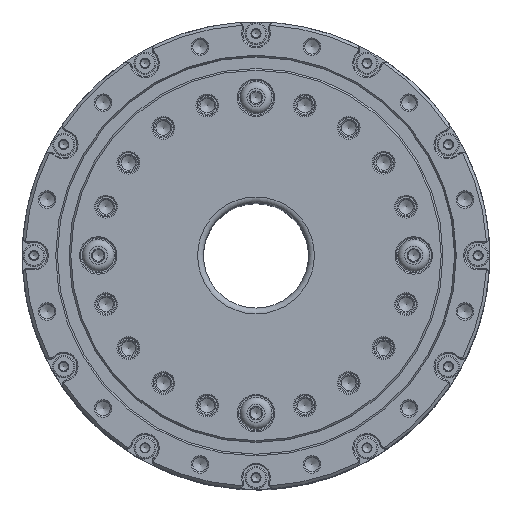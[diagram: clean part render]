
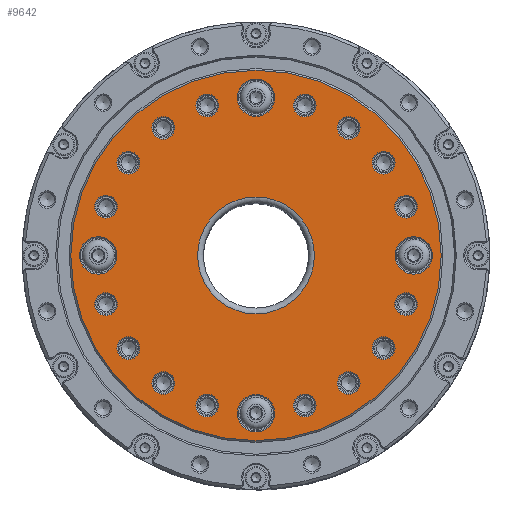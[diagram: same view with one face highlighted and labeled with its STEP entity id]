
A CAD part, top view. The second image highlights one B-rep face of the part: STEP entity #9642.
In plain terms, the highlighted planar face has unit normal (0, 0, 1).
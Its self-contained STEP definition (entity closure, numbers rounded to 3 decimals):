
#5162=FACE_BOUND('',#15038,.T.);
#5163=FACE_BOUND('',#15039,.T.);
#5164=FACE_BOUND('',#15040,.T.);
#5165=FACE_BOUND('',#15041,.T.);
#5166=FACE_BOUND('',#15042,.T.);
#5167=FACE_BOUND('',#15043,.T.);
#5168=FACE_BOUND('',#15044,.T.);
#5169=FACE_BOUND('',#15045,.T.);
#5170=FACE_BOUND('',#15046,.T.);
#5171=FACE_BOUND('',#15047,.T.);
#5172=FACE_BOUND('',#15048,.T.);
#5173=FACE_BOUND('',#15049,.T.);
#5174=FACE_BOUND('',#15050,.T.);
#5175=FACE_BOUND('',#15051,.T.);
#5176=FACE_BOUND('',#15052,.T.);
#5177=FACE_BOUND('',#15053,.T.);
#5178=FACE_BOUND('',#15054,.T.);
#5179=FACE_BOUND('',#15055,.T.);
#5180=FACE_BOUND('',#15056,.T.);
#5181=FACE_BOUND('',#15057,.T.);
#5182=FACE_BOUND('',#15058,.T.);
#5183=FACE_BOUND('',#15059,.T.);
#7421=CIRCLE('',#36203,10.);
#7422=CIRCLE('',#36205,3.2);
#7423=CIRCLE('',#36206,3.2);
#7424=CIRCLE('',#36207,3.2);
#7425=CIRCLE('',#36208,3.2);
#7426=CIRCLE('',#36209,1.95);
#7427=CIRCLE('',#36210,1.95);
#7428=CIRCLE('',#36211,1.95);
#7429=CIRCLE('',#36212,1.95);
#7430=CIRCLE('',#36213,1.95);
#7431=CIRCLE('',#36214,1.95);
#7432=CIRCLE('',#36215,1.95);
#7433=CIRCLE('',#36216,1.95);
#7434=CIRCLE('',#36217,1.95);
#7435=CIRCLE('',#36218,1.95);
#7436=CIRCLE('',#36219,1.95);
#7437=CIRCLE('',#36220,1.95);
#7438=CIRCLE('',#36221,1.95);
#7439=CIRCLE('',#36222,1.95);
#7440=CIRCLE('',#36223,1.95);
#7441=CIRCLE('',#36224,1.95);
#7442=CIRCLE('',#36225,31.7);
#9642=ADVANCED_FACE('',(#5162,#5163,#5164,#5165,#5166,#5167,#5168,#5169,
#5170,#5171,#5172,#5173,#5174,#5175,#5176,#5177,#5178,#5179,#5180,#5181,
#5182,#5183),#10655,.F.);
#10655=PLANE('',#36226);
#15038=EDGE_LOOP('',(#22160));
#15039=EDGE_LOOP('',(#22161));
#15040=EDGE_LOOP('',(#22162));
#15041=EDGE_LOOP('',(#22163));
#15042=EDGE_LOOP('',(#22164));
#15043=EDGE_LOOP('',(#22165));
#15044=EDGE_LOOP('',(#22166));
#15045=EDGE_LOOP('',(#22167));
#15046=EDGE_LOOP('',(#22168));
#15047=EDGE_LOOP('',(#22169));
#15048=EDGE_LOOP('',(#22170));
#15049=EDGE_LOOP('',(#22171));
#15050=EDGE_LOOP('',(#22172));
#15051=EDGE_LOOP('',(#22173));
#15052=EDGE_LOOP('',(#22174));
#15053=EDGE_LOOP('',(#22175));
#15054=EDGE_LOOP('',(#22176));
#15055=EDGE_LOOP('',(#22177));
#15056=EDGE_LOOP('',(#22178));
#15057=EDGE_LOOP('',(#22179));
#15058=EDGE_LOOP('',(#22180));
#15059=EDGE_LOOP('',(#22181));
#22160=ORIENTED_EDGE('',*,*,#29264,.T.);
#22161=ORIENTED_EDGE('',*,*,#29265,.T.);
#22162=ORIENTED_EDGE('',*,*,#29266,.T.);
#22163=ORIENTED_EDGE('',*,*,#29267,.T.);
#22164=ORIENTED_EDGE('',*,*,#29268,.T.);
#22165=ORIENTED_EDGE('',*,*,#29269,.T.);
#22166=ORIENTED_EDGE('',*,*,#29270,.T.);
#22167=ORIENTED_EDGE('',*,*,#29271,.T.);
#22168=ORIENTED_EDGE('',*,*,#29272,.T.);
#22169=ORIENTED_EDGE('',*,*,#29273,.T.);
#22170=ORIENTED_EDGE('',*,*,#29274,.T.);
#22171=ORIENTED_EDGE('',*,*,#29275,.T.);
#22172=ORIENTED_EDGE('',*,*,#29276,.T.);
#22173=ORIENTED_EDGE('',*,*,#29277,.T.);
#22174=ORIENTED_EDGE('',*,*,#29278,.T.);
#22175=ORIENTED_EDGE('',*,*,#29279,.T.);
#22176=ORIENTED_EDGE('',*,*,#29280,.T.);
#22177=ORIENTED_EDGE('',*,*,#29281,.T.);
#22178=ORIENTED_EDGE('',*,*,#29282,.T.);
#22179=ORIENTED_EDGE('',*,*,#29283,.T.);
#22180=ORIENTED_EDGE('',*,*,#29284,.F.);
#22181=ORIENTED_EDGE('',*,*,#29263,.T.);
#25612=VERTEX_POINT('',#56383);
#25613=VERTEX_POINT('',#56386);
#25614=VERTEX_POINT('',#56388);
#25615=VERTEX_POINT('',#56390);
#25616=VERTEX_POINT('',#56392);
#25617=VERTEX_POINT('',#56394);
#25618=VERTEX_POINT('',#56396);
#25619=VERTEX_POINT('',#56398);
#25620=VERTEX_POINT('',#56400);
#25621=VERTEX_POINT('',#56402);
#25622=VERTEX_POINT('',#56404);
#25623=VERTEX_POINT('',#56406);
#25624=VERTEX_POINT('',#56408);
#25625=VERTEX_POINT('',#56410);
#25626=VERTEX_POINT('',#56412);
#25627=VERTEX_POINT('',#56414);
#25628=VERTEX_POINT('',#56416);
#25629=VERTEX_POINT('',#56418);
#25630=VERTEX_POINT('',#56420);
#25631=VERTEX_POINT('',#56422);
#25632=VERTEX_POINT('',#56424);
#25633=VERTEX_POINT('',#56426);
#29263=EDGE_CURVE('',#25612,#25612,#7421,.T.);
#29264=EDGE_CURVE('',#25613,#25613,#7422,.T.);
#29265=EDGE_CURVE('',#25614,#25614,#7423,.T.);
#29266=EDGE_CURVE('',#25615,#25615,#7424,.T.);
#29267=EDGE_CURVE('',#25616,#25616,#7425,.T.);
#29268=EDGE_CURVE('',#25617,#25617,#7426,.T.);
#29269=EDGE_CURVE('',#25618,#25618,#7427,.T.);
#29270=EDGE_CURVE('',#25619,#25619,#7428,.T.);
#29271=EDGE_CURVE('',#25620,#25620,#7429,.T.);
#29272=EDGE_CURVE('',#25621,#25621,#7430,.T.);
#29273=EDGE_CURVE('',#25622,#25622,#7431,.T.);
#29274=EDGE_CURVE('',#25623,#25623,#7432,.T.);
#29275=EDGE_CURVE('',#25624,#25624,#7433,.T.);
#29276=EDGE_CURVE('',#25625,#25625,#7434,.T.);
#29277=EDGE_CURVE('',#25626,#25626,#7435,.T.);
#29278=EDGE_CURVE('',#25627,#25627,#7436,.T.);
#29279=EDGE_CURVE('',#25628,#25628,#7437,.T.);
#29280=EDGE_CURVE('',#25629,#25629,#7438,.T.);
#29281=EDGE_CURVE('',#25630,#25630,#7439,.T.);
#29282=EDGE_CURVE('',#25631,#25631,#7440,.T.);
#29283=EDGE_CURVE('',#25632,#25632,#7441,.T.);
#29284=EDGE_CURVE('',#25633,#25633,#7442,.T.);
#36203=AXIS2_PLACEMENT_3D('',#56382,#45608,#45609);
#36205=AXIS2_PLACEMENT_3D('',#56385,#45612,#45613);
#36206=AXIS2_PLACEMENT_3D('',#56387,#45614,#45615);
#36207=AXIS2_PLACEMENT_3D('',#56389,#45616,#45617);
#36208=AXIS2_PLACEMENT_3D('',#56391,#45618,#45619);
#36209=AXIS2_PLACEMENT_3D('',#56393,#45620,#45621);
#36210=AXIS2_PLACEMENT_3D('',#56395,#45622,#45623);
#36211=AXIS2_PLACEMENT_3D('',#56397,#45624,#45625);
#36212=AXIS2_PLACEMENT_3D('',#56399,#45626,#45627);
#36213=AXIS2_PLACEMENT_3D('',#56401,#45628,#45629);
#36214=AXIS2_PLACEMENT_3D('',#56403,#45630,#45631);
#36215=AXIS2_PLACEMENT_3D('',#56405,#45632,#45633);
#36216=AXIS2_PLACEMENT_3D('',#56407,#45634,#45635);
#36217=AXIS2_PLACEMENT_3D('',#56409,#45636,#45637);
#36218=AXIS2_PLACEMENT_3D('',#56411,#45638,#45639);
#36219=AXIS2_PLACEMENT_3D('',#56413,#45640,#45641);
#36220=AXIS2_PLACEMENT_3D('',#56415,#45642,#45643);
#36221=AXIS2_PLACEMENT_3D('',#56417,#45644,#45645);
#36222=AXIS2_PLACEMENT_3D('',#56419,#45646,#45647);
#36223=AXIS2_PLACEMENT_3D('',#56421,#45648,#45649);
#36224=AXIS2_PLACEMENT_3D('',#56423,#45650,#45651);
#36225=AXIS2_PLACEMENT_3D('',#56425,#45652,#45653);
#36226=AXIS2_PLACEMENT_3D('',#56427,#45654,#45655);
#45608=DIRECTION('',(0.,0.,-1.));
#45609=DIRECTION('',(-1.,0.,0.));
#45612=DIRECTION('',(0.,0.,-1.));
#45613=DIRECTION('',(-1.,0.,0.));
#45614=DIRECTION('',(0.,0.,-1.));
#45615=DIRECTION('',(-1.,0.,0.));
#45616=DIRECTION('',(0.,0.,-1.));
#45617=DIRECTION('',(-1.,0.,0.));
#45618=DIRECTION('',(0.,0.,-1.));
#45619=DIRECTION('',(-1.,0.,0.));
#45620=DIRECTION('',(0.,0.,-1.));
#45621=DIRECTION('',(-1.,0.,0.));
#45622=DIRECTION('',(0.,0.,-1.));
#45623=DIRECTION('',(-1.,0.,0.));
#45624=DIRECTION('',(0.,0.,-1.));
#45625=DIRECTION('',(-1.,0.,0.));
#45626=DIRECTION('',(0.,0.,-1.));
#45627=DIRECTION('',(-1.,0.,0.));
#45628=DIRECTION('',(0.,0.,-1.));
#45629=DIRECTION('',(-1.,0.,0.));
#45630=DIRECTION('',(0.,0.,-1.));
#45631=DIRECTION('',(-1.,0.,0.));
#45632=DIRECTION('',(0.,0.,-1.));
#45633=DIRECTION('',(-1.,0.,0.));
#45634=DIRECTION('',(0.,0.,-1.));
#45635=DIRECTION('',(-1.,0.,0.));
#45636=DIRECTION('',(0.,0.,-1.));
#45637=DIRECTION('',(-1.,0.,0.));
#45638=DIRECTION('',(0.,0.,-1.));
#45639=DIRECTION('',(-1.,0.,0.));
#45640=DIRECTION('',(0.,0.,-1.));
#45641=DIRECTION('',(-1.,0.,0.));
#45642=DIRECTION('',(0.,0.,-1.));
#45643=DIRECTION('',(-1.,0.,0.));
#45644=DIRECTION('',(0.,0.,-1.));
#45645=DIRECTION('',(-1.,0.,0.));
#45646=DIRECTION('',(0.,0.,-1.));
#45647=DIRECTION('',(-1.,0.,0.));
#45648=DIRECTION('',(0.,0.,-1.));
#45649=DIRECTION('',(-1.,0.,0.));
#45650=DIRECTION('',(0.,0.,-1.));
#45651=DIRECTION('',(-1.,0.,0.));
#45652=DIRECTION('',(0.,0.,-1.));
#45653=DIRECTION('',(-1.,0.,0.));
#45654=DIRECTION('',(0.,0.,-1.));
#45655=DIRECTION('',(1.,0.,0.));
#56382=CARTESIAN_POINT('',(0.,0.,43.5));
#56383=CARTESIAN_POINT('',(-10.,0.,43.5));
#56385=CARTESIAN_POINT('',(0.,27.,43.5));
#56386=CARTESIAN_POINT('',(-3.2,27.,43.5));
#56387=CARTESIAN_POINT('',(-27.,0.,43.5));
#56388=CARTESIAN_POINT('',(-30.2,0.,43.5));
#56389=CARTESIAN_POINT('',(0.,-27.,43.5));
#56390=CARTESIAN_POINT('',(-3.2,-27.,43.5));
#56391=CARTESIAN_POINT('',(27.,0.,43.5));
#56392=CARTESIAN_POINT('',(23.8,0.,43.5));
#56393=CARTESIAN_POINT('',(8.343,-25.679,43.5));
#56394=CARTESIAN_POINT('',(6.393,-25.679,43.5));
#56395=CARTESIAN_POINT('',(15.87,-21.843,43.5));
#56396=CARTESIAN_POINT('',(13.92,-21.843,43.5));
#56397=CARTESIAN_POINT('',(21.843,-15.87,43.5));
#56398=CARTESIAN_POINT('',(19.893,-15.87,43.5));
#56399=CARTESIAN_POINT('',(25.679,-8.343,43.5));
#56400=CARTESIAN_POINT('',(23.729,-8.343,43.5));
#56401=CARTESIAN_POINT('',(-25.679,-8.343,43.5));
#56402=CARTESIAN_POINT('',(-27.629,-8.343,43.5));
#56403=CARTESIAN_POINT('',(-21.843,-15.87,43.5));
#56404=CARTESIAN_POINT('',(-23.793,-15.87,43.5));
#56405=CARTESIAN_POINT('',(-15.87,-21.843,43.5));
#56406=CARTESIAN_POINT('',(-17.82,-21.843,43.5));
#56407=CARTESIAN_POINT('',(-8.343,-25.679,43.5));
#56408=CARTESIAN_POINT('',(-10.293,-25.679,43.5));
#56409=CARTESIAN_POINT('',(-8.343,25.679,43.5));
#56410=CARTESIAN_POINT('',(-10.293,25.679,43.5));
#56411=CARTESIAN_POINT('',(-15.87,21.843,43.5));
#56412=CARTESIAN_POINT('',(-17.82,21.843,43.5));
#56413=CARTESIAN_POINT('',(-21.843,15.87,43.5));
#56414=CARTESIAN_POINT('',(-23.793,15.87,43.5));
#56415=CARTESIAN_POINT('',(-25.679,8.343,43.5));
#56416=CARTESIAN_POINT('',(-27.629,8.343,43.5));
#56417=CARTESIAN_POINT('',(25.679,8.343,43.5));
#56418=CARTESIAN_POINT('',(23.729,8.343,43.5));
#56419=CARTESIAN_POINT('',(21.843,15.87,43.5));
#56420=CARTESIAN_POINT('',(19.893,15.87,43.5));
#56421=CARTESIAN_POINT('',(15.87,21.843,43.5));
#56422=CARTESIAN_POINT('',(13.92,21.843,43.5));
#56423=CARTESIAN_POINT('',(8.343,25.679,43.5));
#56424=CARTESIAN_POINT('',(6.393,25.679,43.5));
#56425=CARTESIAN_POINT('',(0.,0.,43.5));
#56426=CARTESIAN_POINT('',(-31.7,0.,43.5));
#56427=CARTESIAN_POINT('',(-10.,0.,43.5));
